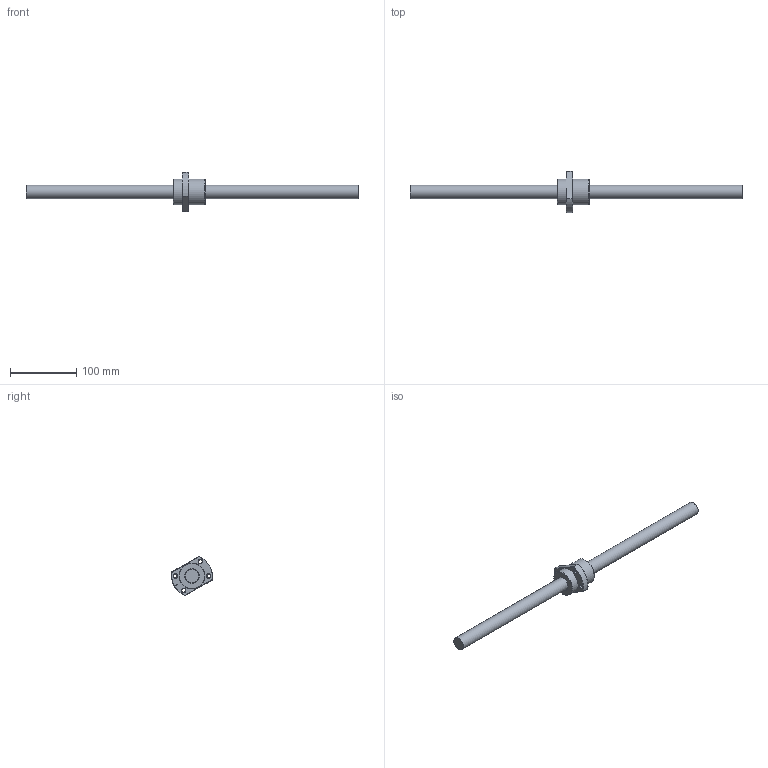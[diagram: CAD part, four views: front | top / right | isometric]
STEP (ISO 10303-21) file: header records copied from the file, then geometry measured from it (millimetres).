
FILE_DESCRIPTION (( 'STEP AP203' ), '1' );
FILE_NAME ('SFY02040-1.6.step', '2024-05-21T08:56:46', ( '' ), ( '' ), 'SwSTEP 2.0', 'SolidWorks 2022', '' );
FILE_SCHEMA (( 'CONFIG_CONTROL_DESIGN' ));
Length unit declared in the file: millimetre
Products named in the file (1): SFY02040-1.6
Bounding box: 500 x 61.95 x 58.76 mm (x, y, z)
Volume: 206107.5 mm3; surface area: 46398.2 mm2
Topology: 2 solids, 2 shells, 51 faces, 116 edges, 71 vertices
Faces by surface type: cylinder 18, plane 13, cone 9, torus 6, bspline 5
Full cylindrical faces by diameter (mm): 3.8 x1, 5 x6, 5.5 x4, 20 x1, 22.1 x1, 39 x2
Entity records: 2949 total; most frequent: CARTESIAN_POINT 2028, DIRECTION 170, ORIENTED_EDGE 140, EDGE_LOOP 80, AXIS2_PLACEMENT_3D 77, EDGE_CURVE 70, FACE_OUTER_BOUND 57, VERTEX_POINT 54
